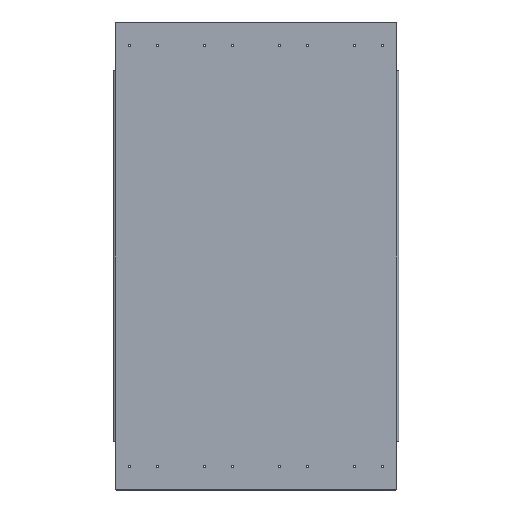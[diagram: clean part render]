
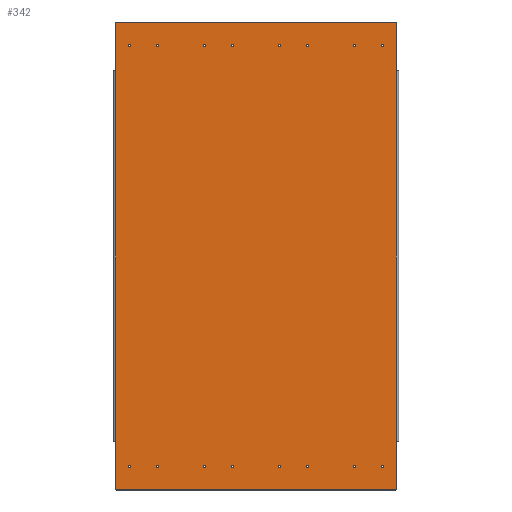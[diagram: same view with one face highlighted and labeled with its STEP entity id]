
A CAD part, top view. The second image highlights one B-rep face of the part: STEP entity #342.
In plain terms, the highlighted planar face has unit normal (0, 0, 1).
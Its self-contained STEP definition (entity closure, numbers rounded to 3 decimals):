
#59=CARTESIAN_POINT('',(1580.,3593.5,567.5));
#60=DIRECTION('',(-0.,-0.,1.));
#61=DIRECTION('',(0.,1.,0.));
#62=AXIS2_PLACEMENT_3D('',#59,#60,#61);
#63=PLANE('',#62);
#64=CARTESIAN_POINT('',(1110.,3630.9,567.5));
#65=VERTEX_POINT('',#64);
#66=CARTESIAN_POINT('',(1110.,3633.5,567.5));
#67=DIRECTION('',(-0.,-0.,1.));
#68=DIRECTION('',(0.,-1.,-0.));
#69=AXIS2_PLACEMENT_3D('',#66,#67,#68);
#70=CIRCLE('',#69,2.6);
#71=EDGE_CURVE('',#65,#65,#70,.T.);
#72=ORIENTED_EDGE('',*,*,#71,.F.);
#73=EDGE_LOOP('',(#72));
#74=FACE_BOUND('',#73,.T.);
#75=CARTESIAN_POINT('',(1050.,3630.9,567.5));
#76=VERTEX_POINT('',#75);
#77=CARTESIAN_POINT('',(1050.,3633.5,567.5));
#78=DIRECTION('',(-0.,-0.,1.));
#79=DIRECTION('',(0.,-1.,-0.));
#80=AXIS2_PLACEMENT_3D('',#77,#78,#79);
#81=CIRCLE('',#80,2.6);
#82=EDGE_CURVE('',#76,#76,#81,.T.);
#83=ORIENTED_EDGE('',*,*,#82,.F.);
#84=EDGE_LOOP('',(#83));
#85=FACE_BOUND('',#84,.T.);
#86=CARTESIAN_POINT('',(1210.,3630.9,567.5));
#87=VERTEX_POINT('',#86);
#88=CARTESIAN_POINT('',(1210.,3633.5,567.5));
#89=DIRECTION('',(-0.,-0.,1.));
#90=DIRECTION('',(0.,-1.,-0.));
#91=AXIS2_PLACEMENT_3D('',#88,#89,#90);
#92=CIRCLE('',#91,2.6);
#93=EDGE_CURVE('',#87,#87,#92,.T.);
#94=ORIENTED_EDGE('',*,*,#93,.F.);
#95=EDGE_LOOP('',(#94));
#96=FACE_BOUND('',#95,.T.);
#97=CARTESIAN_POINT('',(1270.,3630.9,567.5));
#98=VERTEX_POINT('',#97);
#99=CARTESIAN_POINT('',(1270.,3633.5,567.5));
#100=DIRECTION('',(-0.,-0.,1.));
#101=DIRECTION('',(0.,-1.,-0.));
#102=AXIS2_PLACEMENT_3D('',#99,#100,#101);
#103=CIRCLE('',#102,2.6);
#104=EDGE_CURVE('',#98,#98,#103,.T.);
#105=ORIENTED_EDGE('',*,*,#104,.F.);
#106=EDGE_LOOP('',(#105));
#107=FACE_BOUND('',#106,.T.);
#108=CARTESIAN_POINT('',(1370.,3630.9,567.5));
#109=VERTEX_POINT('',#108);
#110=CARTESIAN_POINT('',(1370.,3633.5,567.5));
#111=DIRECTION('',(-0.,-0.,1.));
#112=DIRECTION('',(0.,-1.,-0.));
#113=AXIS2_PLACEMENT_3D('',#110,#111,#112);
#114=CIRCLE('',#113,2.6);
#115=EDGE_CURVE('',#109,#109,#114,.T.);
#116=ORIENTED_EDGE('',*,*,#115,.F.);
#117=EDGE_LOOP('',(#116));
#118=FACE_BOUND('',#117,.T.);
#119=CARTESIAN_POINT('',(1430.,3630.9,567.5));
#120=VERTEX_POINT('',#119);
#121=CARTESIAN_POINT('',(1430.,3633.5,567.5));
#122=DIRECTION('',(-0.,-0.,1.));
#123=DIRECTION('',(0.,-1.,-0.));
#124=AXIS2_PLACEMENT_3D('',#121,#122,#123);
#125=CIRCLE('',#124,2.6);
#126=EDGE_CURVE('',#120,#120,#125,.T.);
#127=ORIENTED_EDGE('',*,*,#126,.F.);
#128=EDGE_LOOP('',(#127));
#129=FACE_BOUND('',#128,.T.);
#130=CARTESIAN_POINT('',(1530.,3630.9,567.5));
#131=VERTEX_POINT('',#130);
#132=CARTESIAN_POINT('',(1530.,3633.5,567.5));
#133=DIRECTION('',(-0.,-0.,1.));
#134=DIRECTION('',(0.,-1.,-0.));
#135=AXIS2_PLACEMENT_3D('',#132,#133,#134);
#136=CIRCLE('',#135,2.6);
#137=EDGE_CURVE('',#131,#131,#136,.T.);
#138=ORIENTED_EDGE('',*,*,#137,.F.);
#139=EDGE_LOOP('',(#138));
#140=FACE_BOUND('',#139,.T.);
#141=CARTESIAN_POINT('',(1590.,3630.9,567.5));
#142=VERTEX_POINT('',#141);
#143=CARTESIAN_POINT('',(1590.,3633.5,567.5));
#144=DIRECTION('',(-0.,-0.,1.));
#145=DIRECTION('',(0.,-1.,-0.));
#146=AXIS2_PLACEMENT_3D('',#143,#144,#145);
#147=CIRCLE('',#146,2.6);
#148=EDGE_CURVE('',#142,#142,#147,.T.);
#149=ORIENTED_EDGE('',*,*,#148,.F.);
#150=EDGE_LOOP('',(#149));
#151=FACE_BOUND('',#150,.T.);
#152=CARTESIAN_POINT('',(1270.,4530.9,567.5));
#153=VERTEX_POINT('',#152);
#154=CARTESIAN_POINT('',(1270.,4533.5,567.5));
#155=DIRECTION('',(-0.,-0.,1.));
#156=DIRECTION('',(0.,-1.,-0.));
#157=AXIS2_PLACEMENT_3D('',#154,#155,#156);
#158=CIRCLE('',#157,2.6);
#159=EDGE_CURVE('',#153,#153,#158,.T.);
#160=ORIENTED_EDGE('',*,*,#159,.F.);
#161=EDGE_LOOP('',(#160));
#162=FACE_BOUND('',#161,.T.);
#163=CARTESIAN_POINT('',(1050.,4530.9,567.5));
#164=VERTEX_POINT('',#163);
#165=CARTESIAN_POINT('',(1050.,4533.5,567.5));
#166=DIRECTION('',(-0.,-0.,1.));
#167=DIRECTION('',(0.,-1.,-0.));
#168=AXIS2_PLACEMENT_3D('',#165,#166,#167);
#169=CIRCLE('',#168,2.6);
#170=EDGE_CURVE('',#164,#164,#169,.T.);
#171=ORIENTED_EDGE('',*,*,#170,.F.);
#172=EDGE_LOOP('',(#171));
#173=FACE_BOUND('',#172,.T.);
#174=CARTESIAN_POINT('',(1210.,4530.9,567.5));
#175=VERTEX_POINT('',#174);
#176=CARTESIAN_POINT('',(1210.,4533.5,567.5));
#177=DIRECTION('',(-0.,-0.,1.));
#178=DIRECTION('',(0.,-1.,-0.));
#179=AXIS2_PLACEMENT_3D('',#176,#177,#178);
#180=CIRCLE('',#179,2.6);
#181=EDGE_CURVE('',#175,#175,#180,.T.);
#182=ORIENTED_EDGE('',*,*,#181,.F.);
#183=EDGE_LOOP('',(#182));
#184=FACE_BOUND('',#183,.T.);
#185=CARTESIAN_POINT('',(1110.,4530.9,567.5));
#186=VERTEX_POINT('',#185);
#187=CARTESIAN_POINT('',(1110.,4533.5,567.5));
#188=DIRECTION('',(-0.,-0.,1.));
#189=DIRECTION('',(0.,-1.,-0.));
#190=AXIS2_PLACEMENT_3D('',#187,#188,#189);
#191=CIRCLE('',#190,2.6);
#192=EDGE_CURVE('',#186,#186,#191,.T.);
#193=ORIENTED_EDGE('',*,*,#192,.F.);
#194=EDGE_LOOP('',(#193));
#195=FACE_BOUND('',#194,.T.);
#196=CARTESIAN_POINT('',(1590.,4530.9,567.5));
#197=VERTEX_POINT('',#196);
#198=CARTESIAN_POINT('',(1590.,4533.5,567.5));
#199=DIRECTION('',(-0.,-0.,1.));
#200=DIRECTION('',(0.,-1.,-0.));
#201=AXIS2_PLACEMENT_3D('',#198,#199,#200);
#202=CIRCLE('',#201,2.6);
#203=EDGE_CURVE('',#197,#197,#202,.T.);
#204=ORIENTED_EDGE('',*,*,#203,.F.);
#205=EDGE_LOOP('',(#204));
#206=FACE_BOUND('',#205,.T.);
#207=CARTESIAN_POINT('',(1530.,4530.9,567.5));
#208=VERTEX_POINT('',#207);
#209=CARTESIAN_POINT('',(1530.,4533.5,567.5));
#210=DIRECTION('',(-0.,-0.,1.));
#211=DIRECTION('',(0.,-1.,-0.));
#212=AXIS2_PLACEMENT_3D('',#209,#210,#211);
#213=CIRCLE('',#212,2.6);
#214=EDGE_CURVE('',#208,#208,#213,.T.);
#215=ORIENTED_EDGE('',*,*,#214,.F.);
#216=EDGE_LOOP('',(#215));
#217=FACE_BOUND('',#216,.T.);
#218=CARTESIAN_POINT('',(1370.,4530.9,567.5));
#219=VERTEX_POINT('',#218);
#220=CARTESIAN_POINT('',(1370.,4533.5,567.5));
#221=DIRECTION('',(-0.,-0.,1.));
#222=DIRECTION('',(0.,-1.,-0.));
#223=AXIS2_PLACEMENT_3D('',#220,#221,#222);
#224=CIRCLE('',#223,2.6);
#225=EDGE_CURVE('',#219,#219,#224,.T.);
#226=ORIENTED_EDGE('',*,*,#225,.F.);
#227=EDGE_LOOP('',(#226));
#228=FACE_BOUND('',#227,.T.);
#229=CARTESIAN_POINT('',(1430.,4530.9,567.5));
#230=VERTEX_POINT('',#229);
#231=CARTESIAN_POINT('',(1430.,4533.5,567.5));
#232=DIRECTION('',(-0.,-0.,1.));
#233=DIRECTION('',(0.,-1.,-0.));
#234=AXIS2_PLACEMENT_3D('',#231,#232,#233);
#235=CIRCLE('',#234,2.6);
#236=EDGE_CURVE('',#230,#230,#235,.T.);
#237=ORIENTED_EDGE('',*,*,#236,.F.);
#238=EDGE_LOOP('',(#237));
#239=FACE_BOUND('',#238,.T.);
#240=CARTESIAN_POINT('',(1020.,4479.5,567.5));
#241=VERTEX_POINT('',#240);
#242=CARTESIAN_POINT('',(1020.,4582.5,567.5));
#243=VERTEX_POINT('',#242);
#244=CARTESIAN_POINT('',(1020.,4479.5,567.5));
#245=DIRECTION('',(0.,1.,0.));
#246=VECTOR('',#245,103.);
#247=LINE('',#244,#246);
#248=EDGE_CURVE('',#241,#243,#247,.T.);
#249=ORIENTED_EDGE('',*,*,#248,.F.);
#250=CARTESIAN_POINT('',(1020.,3687.5,567.5));
#251=VERTEX_POINT('',#250);
#252=CARTESIAN_POINT('',(1020.,4479.5,567.5));
#253=DIRECTION('',(-0.,-1.,-0.));
#254=VECTOR('',#253,792.);
#255=LINE('',#252,#254);
#256=EDGE_CURVE('',#241,#251,#255,.T.);
#257=ORIENTED_EDGE('',*,*,#256,.T.);
#258=CARTESIAN_POINT('',(1020.,3584.5,567.5));
#259=VERTEX_POINT('',#258);
#260=CARTESIAN_POINT('',(1020.,3687.5,567.5));
#261=DIRECTION('',(0.,-1.,-0.));
#262=VECTOR('',#261,103.);
#263=LINE('',#260,#262);
#264=EDGE_CURVE('',#251,#259,#263,.T.);
#265=ORIENTED_EDGE('',*,*,#264,.T.);
#266=CARTESIAN_POINT('',(1021.,3583.5,567.5));
#267=VERTEX_POINT('',#266);
#268=CARTESIAN_POINT('',(1021.,3584.5,567.5));
#269=DIRECTION('',(-0.,-0.,1.));
#270=DIRECTION('',(0.,-1.,-0.));
#271=AXIS2_PLACEMENT_3D('',#268,#269,#270);
#272=CIRCLE('',#271,1.);
#273=EDGE_CURVE('',#259,#267,#272,.T.);
#274=ORIENTED_EDGE('',*,*,#273,.T.);
#275=CARTESIAN_POINT('',(1619.,3583.5,567.5));
#276=VERTEX_POINT('',#275);
#277=CARTESIAN_POINT('',(1619.,3583.5,567.5));
#278=DIRECTION('',(-1.,0.,0.));
#279=VECTOR('',#278,598.);
#280=LINE('',#277,#279);
#281=EDGE_CURVE('',#276,#267,#280,.T.);
#282=ORIENTED_EDGE('',*,*,#281,.F.);
#283=CARTESIAN_POINT('',(1620.,3584.5,567.5));
#284=VERTEX_POINT('',#283);
#285=CARTESIAN_POINT('',(1619.,3584.5,567.5));
#286=DIRECTION('',(-0.,-0.,1.));
#287=DIRECTION('',(0.,-1.,-0.));
#288=AXIS2_PLACEMENT_3D('',#285,#286,#287);
#289=CIRCLE('',#288,1.);
#290=EDGE_CURVE('',#276,#284,#289,.T.);
#291=ORIENTED_EDGE('',*,*,#290,.T.);
#292=CARTESIAN_POINT('',(1620.,3687.5,567.5));
#293=VERTEX_POINT('',#292);
#294=CARTESIAN_POINT('',(1620.,3687.5,567.5));
#295=DIRECTION('',(0.,-1.,-0.));
#296=VECTOR('',#295,103.);
#297=LINE('',#294,#296);
#298=EDGE_CURVE('',#293,#284,#297,.T.);
#299=ORIENTED_EDGE('',*,*,#298,.F.);
#300=CARTESIAN_POINT('',(1620.,4479.5,567.5));
#301=VERTEX_POINT('',#300);
#302=CARTESIAN_POINT('',(1620.,3687.5,567.5));
#303=DIRECTION('',(0.,1.,0.));
#304=VECTOR('',#303,792.);
#305=LINE('',#302,#304);
#306=EDGE_CURVE('',#293,#301,#305,.T.);
#307=ORIENTED_EDGE('',*,*,#306,.T.);
#308=CARTESIAN_POINT('',(1620.,4582.5,567.5));
#309=VERTEX_POINT('',#308);
#310=CARTESIAN_POINT('',(1620.,4479.5,567.5));
#311=DIRECTION('',(0.,1.,0.));
#312=VECTOR('',#311,103.);
#313=LINE('',#310,#312);
#314=EDGE_CURVE('',#301,#309,#313,.T.);
#315=ORIENTED_EDGE('',*,*,#314,.T.);
#316=CARTESIAN_POINT('',(1619.,4583.5,567.5));
#317=VERTEX_POINT('',#316);
#318=CARTESIAN_POINT('',(1619.,4582.5,567.5));
#319=DIRECTION('',(-0.,-0.,1.));
#320=DIRECTION('',(0.,-1.,-0.));
#321=AXIS2_PLACEMENT_3D('',#318,#319,#320);
#322=CIRCLE('',#321,1.);
#323=EDGE_CURVE('',#309,#317,#322,.T.);
#324=ORIENTED_EDGE('',*,*,#323,.T.);
#325=CARTESIAN_POINT('',(1021.,4583.5,567.5));
#326=VERTEX_POINT('',#325);
#327=CARTESIAN_POINT('',(1619.,4583.5,567.5));
#328=DIRECTION('',(-1.,0.,0.));
#329=VECTOR('',#328,598.);
#330=LINE('',#327,#329);
#331=EDGE_CURVE('',#317,#326,#330,.T.);
#332=ORIENTED_EDGE('',*,*,#331,.T.);
#333=CARTESIAN_POINT('',(1021.,4582.5,567.5));
#334=DIRECTION('',(-0.,-0.,1.));
#335=DIRECTION('',(0.,-1.,-0.));
#336=AXIS2_PLACEMENT_3D('',#333,#334,#335);
#337=CIRCLE('',#336,1.);
#338=EDGE_CURVE('',#326,#243,#337,.T.);
#339=ORIENTED_EDGE('',*,*,#338,.T.);
#340=EDGE_LOOP('',(#249,#257,#265,#274,#282,#291,#299,#307,#315,#324,#332,#339));
#341=FACE_BOUND('',#340,.T.);
#342=ADVANCED_FACE('',(#74,#85,#96,#107,#118,#129,#140,#151,#162,#173,#184,#195,#206,#217,#228,#239,#341),#63,.T.);
